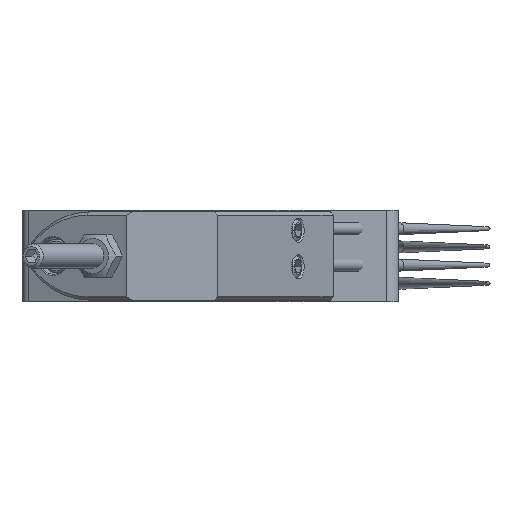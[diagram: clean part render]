
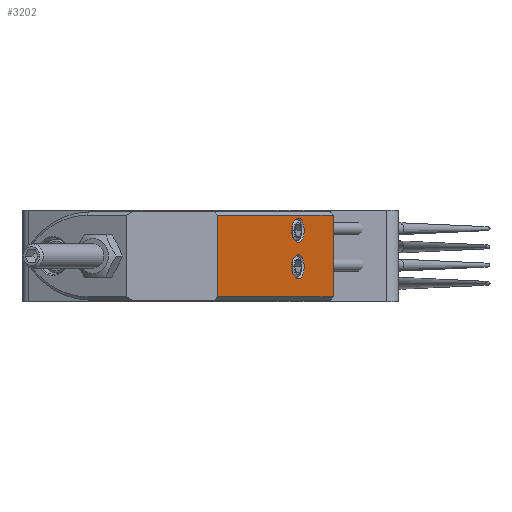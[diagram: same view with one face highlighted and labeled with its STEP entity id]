
A CAD part, left-side view. The second image highlights one B-rep face of the part: STEP entity #3202.
In plain terms, the highlighted planar face has unit normal (-0.5, -0.866, 0) as drawn and (1, 0, 0) by its records, which use the part's own axes.
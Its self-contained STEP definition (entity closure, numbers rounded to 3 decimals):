
#287=LINE('',#5434,#524);
#288=LINE('',#5436,#525);
#289=LINE('',#5438,#526);
#290=LINE('',#5439,#527);
#524=VECTOR('',#4363,10.);
#525=VECTOR('',#4364,10.);
#526=VECTOR('',#4365,10.);
#527=VECTOR('',#4366,10.);
#683=FACE_BOUND('',#1040,.T.);
#684=FACE_BOUND('',#1041,.T.);
#821=FACE_OUTER_BOUND('',#1039,.T.);
#1039=EDGE_LOOP('',(#2537,#2538,#2539,#2540));
#1040=EDGE_LOOP('',(#2541));
#1041=EDGE_LOOP('',(#2542));
#1204=CIRCLE('',#3591,2.);
#1207=CIRCLE('',#3595,2.);
#1426=VERTEX_POINT('',#5368);
#1429=VERTEX_POINT('',#5376);
#1451=VERTEX_POINT('',#5432);
#1452=VERTEX_POINT('',#5433);
#1453=VERTEX_POINT('',#5435);
#1454=VERTEX_POINT('',#5437);
#1798=EDGE_CURVE('',#1426,#1426,#1204,.T.);
#1802=EDGE_CURVE('',#1429,#1429,#1207,.T.);
#1829=EDGE_CURVE('',#1451,#1452,#287,.T.);
#1830=EDGE_CURVE('',#1453,#1452,#288,.T.);
#1831=EDGE_CURVE('',#1454,#1453,#289,.T.);
#1832=EDGE_CURVE('',#1451,#1454,#290,.T.);
#2537=ORIENTED_EDGE('',*,*,#1829,.T.);
#2538=ORIENTED_EDGE('',*,*,#1830,.F.);
#2539=ORIENTED_EDGE('',*,*,#1831,.F.);
#2540=ORIENTED_EDGE('',*,*,#1832,.F.);
#2541=ORIENTED_EDGE('',*,*,#1798,.T.);
#2542=ORIENTED_EDGE('',*,*,#1802,.T.);
#2856=PLANE('',#3617);
#3202=ADVANCED_FACE('',(#821,#683,#684),#2856,.T.);
#3591=AXIS2_PLACEMENT_3D('',#5369,#4297,#4298);
#3595=AXIS2_PLACEMENT_3D('',#5377,#4306,#4307);
#3617=AXIS2_PLACEMENT_3D('',#5431,#4361,#4362);
#4297=DIRECTION('center_axis',(-1.,0.,0.));
#4298=DIRECTION('ref_axis',(0.,0.,-1.));
#4306=DIRECTION('center_axis',(-1.,0.,0.));
#4307=DIRECTION('ref_axis',(0.,0.,-1.));
#4361=DIRECTION('center_axis',(1.,0.,0.));
#4362=DIRECTION('ref_axis',(0.,0.,-1.));
#4363=DIRECTION('',(0.,0.,-1.));
#4364=DIRECTION('',(0.,-1.,0.));
#4365=DIRECTION('',(0.,0.,-1.));
#4366=DIRECTION('',(0.,1.,0.));
#5368=CARTESIAN_POINT('',(23.361,37.5,0.25));
#5369=CARTESIAN_POINT('Origin',(23.361,37.5,-1.75));
#5376=CARTESIAN_POINT('',(23.361,37.5,6.25));
#5377=CARTESIAN_POINT('Origin',(23.361,37.5,4.25));
#5431=CARTESIAN_POINT('Origin',(23.361,49.5,0.));
#5432=CARTESIAN_POINT('',(23.361,11.006,6.75));
#5433=CARTESIAN_POINT('',(23.361,11.006,-6.75));
#5434=CARTESIAN_POINT('',(23.361,11.006,3.625));
#5435=CARTESIAN_POINT('',(23.361,49.,-6.75));
#5436=CARTESIAN_POINT('',(23.361,35.658,-6.75));
#5437=CARTESIAN_POINT('',(23.361,49.,6.75));
#5438=CARTESIAN_POINT('',(23.361,49.,0.));
#5439=CARTESIAN_POINT('',(23.361,35.658,6.75));
